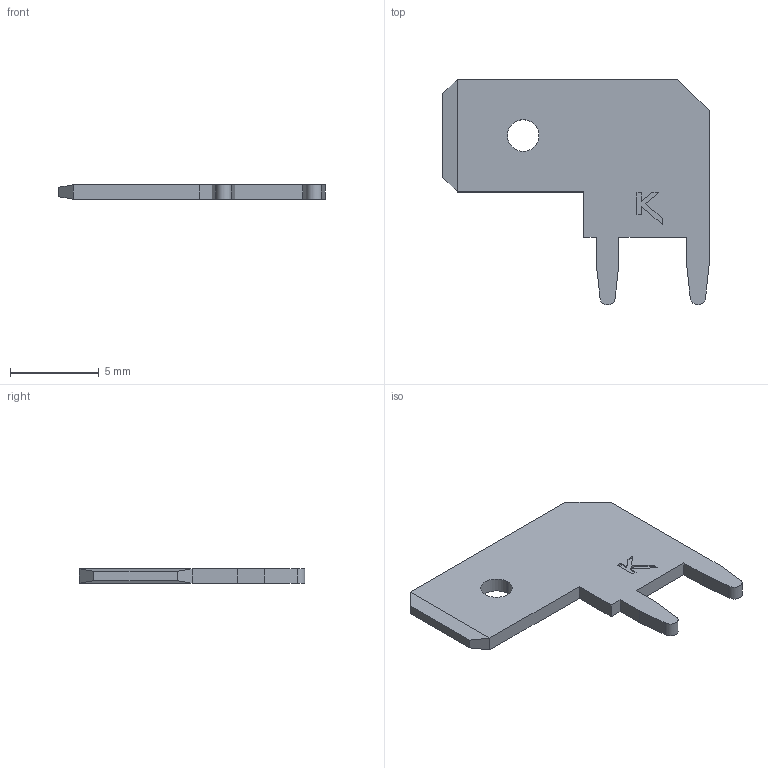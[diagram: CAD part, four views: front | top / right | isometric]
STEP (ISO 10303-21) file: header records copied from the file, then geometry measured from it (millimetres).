
FILE_DESCRIPTION (( 'STEP AP214' ), '1' );
FILE_NAME ('4966_rev.B.STEP', '2012-09-25T13:26:09', ( 'Richard Maletta' ), ( '' ), 'SwSTEP 2.0', 'SolidWorks 2009', '' );
FILE_SCHEMA (( 'AUTOMOTIVE_DESIGN' ));
Length unit declared in the file: inch
Products named in the file (1): 4966_rev.B
Bounding box: 14.99 x 12.7 x 0.81 mm (x, y, z)
Volume: 94.2 mm3; surface area: 285.5 mm2
Topology: 1 solids, 1 shells, 37 faces, 98 edges, 64 vertices
Faces by surface type: plane 33, cylinder 4
Entity records: 1172 total; most frequent: CARTESIAN_POINT 200, ORIENTED_EDGE 196, DIRECTION 182, EDGE_CURVE 98, LINE 90, VECTOR 90, VERTEX_POINT 64, AXIS2_PLACEMENT_3D 46
